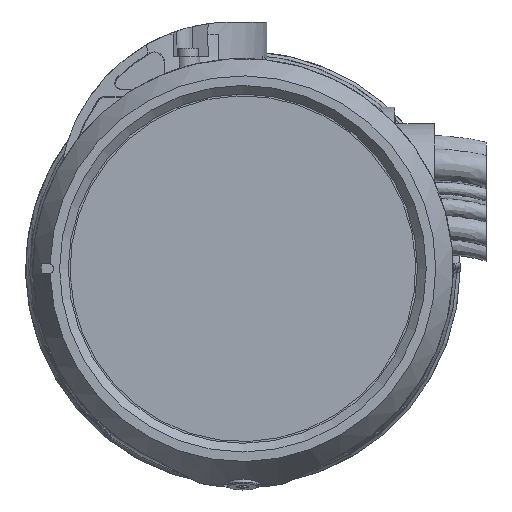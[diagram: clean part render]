
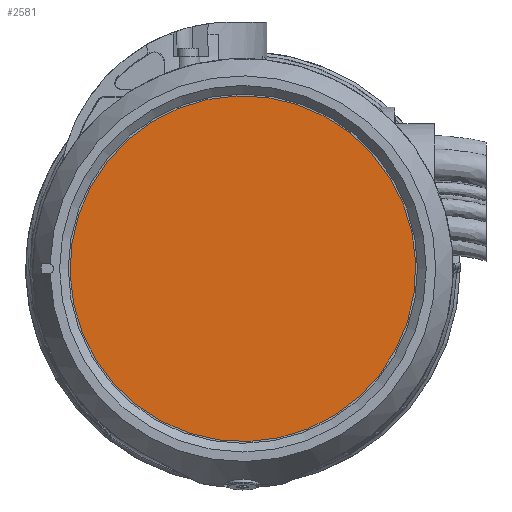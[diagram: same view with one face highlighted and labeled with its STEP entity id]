
A CAD part, left-side view. The second image highlights one B-rep face of the part: STEP entity #2581.
In plain terms, the highlighted planar face has unit normal (-1, 0, 0).
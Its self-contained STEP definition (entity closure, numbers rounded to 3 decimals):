
#645 = EDGE_CURVE ( 'NONE', #31571, #31571, #16450, .T. ) ;
#1797 = CARTESIAN_POINT ( 'NONE',  ( 2051.498, 23.5, 2525. ) ) ;
#2581 = ADVANCED_FACE ( 'NONE', ( #25809 ), #21869, .F. ) ;
#4780 = AXIS2_PLACEMENT_3D ( 'NONE', #38390, #10818, #28228 ) ;
#10678 = CARTESIAN_POINT ( 'NONE',  ( 2051.498, -94.63, 2494.253 ) ) ;
#10818 = DIRECTION ( 'NONE',  ( -1., 0., 0. ) ) ;
#14641 = EDGE_LOOP ( 'NONE', ( #20841 ) ) ;
#15925 = DIRECTION ( 'NONE',  ( 0., 1., 0. ) ) ;
#16450 = CIRCLE ( 'NONE', #4780, 99.5 ) ;
#20841 = ORIENTED_EDGE ( 'NONE', *, *, #645, .T. ) ;
#21869 = PLANE ( 'NONE',  #40133 ) ;
#25809 = FACE_OUTER_BOUND ( 'NONE', #14641, .T. ) ;
#28228 = DIRECTION ( 'NONE',  ( 0., -0.951, -0.309 ) ) ;
#31571 = VERTEX_POINT ( 'NONE', #10678 ) ;
#33179 = DIRECTION ( 'NONE',  ( 1., 0., 0. ) ) ;
#38390 = CARTESIAN_POINT ( 'NONE',  ( 2051.498, 0., 2525. ) ) ;
#40133 = AXIS2_PLACEMENT_3D ( 'NONE', #1797, #33179, #15925 ) ;
